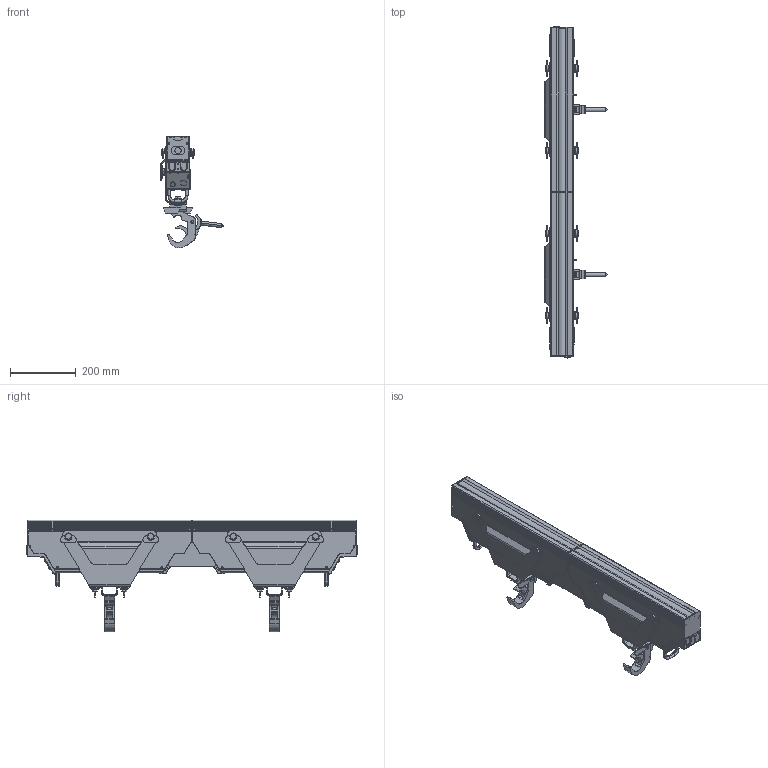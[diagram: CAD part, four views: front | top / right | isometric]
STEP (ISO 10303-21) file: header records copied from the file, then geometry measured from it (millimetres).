
FILE_DESCRIPTION((''),'2;1');
FILE_NAME('GLP-20847_ASM','2020-02-18T11:30:48',('fw'),(''),'CREO PARAMETRIC BY PTC INC, 2018260','CREO PARAMETRIC BY PTC INC, 2018260','');
FILE_SCHEMA(('AUTOMOTIVE_DESIGN { 1 0 10303 214 1 1 1 1 }'));
Products named in the file (1): GLP-20847_ASM
Bounding box: 189.39 x 1006.9 x 339.55 mm (x, y, z)
Surface area: 1364089.1 mm2 (no closed solid volume)
Topology: 0 solids, 367 shells, 1782 faces, 7238 edges, 5627 vertices
Faces by surface type: plane 933, cylinder 571, cone 121, torus 85, bspline 54, sphere 18
Entity records: 88461 total; most frequent: CARTESIAN_POINT 21255, DIRECTION 12627, ORIENTED_EDGE 10051, EDGE_CURVE 7218, VERTEX_POINT 5626, AXIS2_PLACEMENT_3D 4382, VECTOR 3863, LINE 3863
